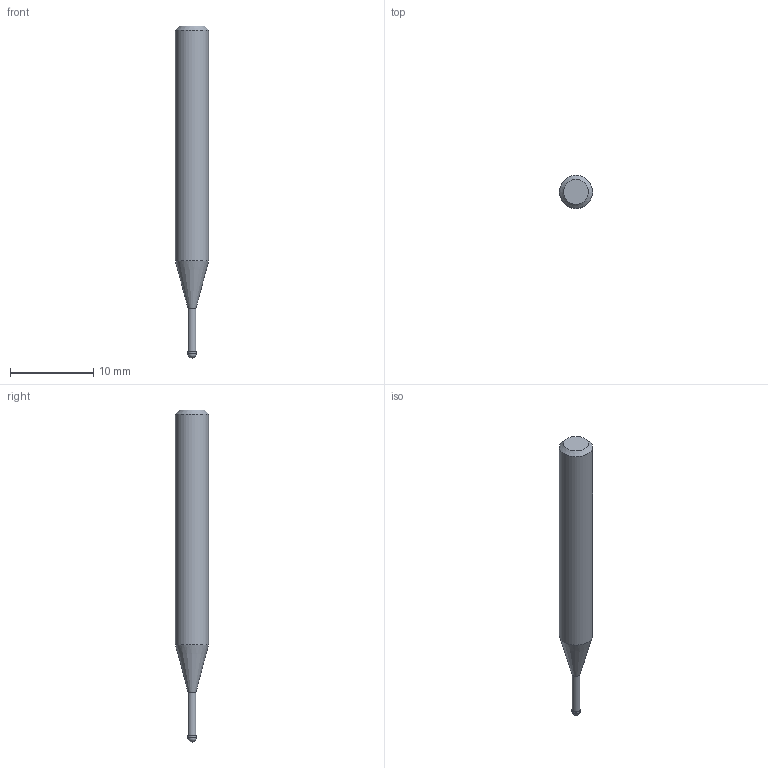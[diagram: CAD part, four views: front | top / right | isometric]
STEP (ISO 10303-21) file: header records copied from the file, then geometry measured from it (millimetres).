
FILE_DESCRIPTION((''),'2;1');
FILE_NAME('C:\Users\nsx150\AppData\Local\Temp\Mastercam 2021\QT8KEW0Y7J\TEMP.step','2021-04-23T11:21:10',(''),(''),'STEP Write','Mastercam 2021 ... CNC Software, Inc.','');
FILE_SCHEMA(('AUTOMOTIVE_DESIGN'));
Length unit declared in the file: millimetre
Products named in the file (1): None
Bounding box: 4 x 4 x 40 mm (x, y, z)
Volume: 389.3 mm3; surface area: 429.6 mm2
Topology: 2 solids, 2 shells, 9 faces, 14 edges, 8 vertices
Faces by surface type: plane 3, cylinder 3, cone 2, sphere 1
Full cylindrical faces by diameter (mm): 0.95 x1, 1 x1, 4 x1
Entity records: 211 total; most frequent: DIRECTION 36, CARTESIAN_POINT 25, AXIS2_PLACEMENT_3D 18, ORIENTED_EDGE 14, EDGE_LOOP 14, STYLED_ITEM 12, ADVANCED_FACE 9, FACE_BOUND 8
